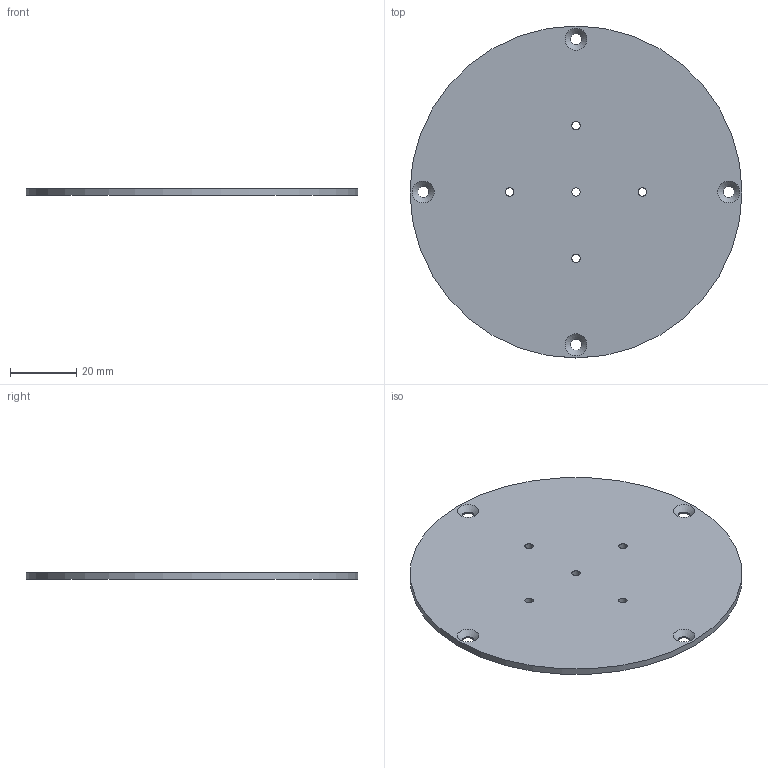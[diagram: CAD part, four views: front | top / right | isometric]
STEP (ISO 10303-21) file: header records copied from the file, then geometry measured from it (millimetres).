
FILE_DESCRIPTION (( 'STEP AP214' ), '1' );
FILE_NAME ('3-054-001 菁釱鍼踢.STEP', '2026-05-21T03:40:59', ( 'Windows User' ), ( 'P R C' ), 'SwSTEP 2.0', 'SolidWorks 2021', '' );
FILE_SCHEMA (( 'AUTOMOTIVE_DESIGN' ));
Length unit declared in the file: millimetre
Products named in the file (1): 3-054-001 菁釱鍼踢
Bounding box: 100 x 100 x 2 mm (x, y, z)
Volume: 15514.4 mm3; surface area: 16351.8 mm2
Topology: 1 solids, 1 shells, 16 faces, 43 edges, 29 vertices
Faces by surface type: cylinder 10, cone 4, plane 2
Full cylindrical faces by diameter (mm): 2.5 x5, 3.4 x4, 100 x1
Entity records: 529 total; most frequent: DIRECTION 82, CARTESIAN_POINT 65, ORIENTED_EDGE 48, EDGE_LOOP 48, AXIS2_PLACEMENT_3D 41, FACE_OUTER_BOUND 26, CIRCLE 24, VERTEX_POINT 24
